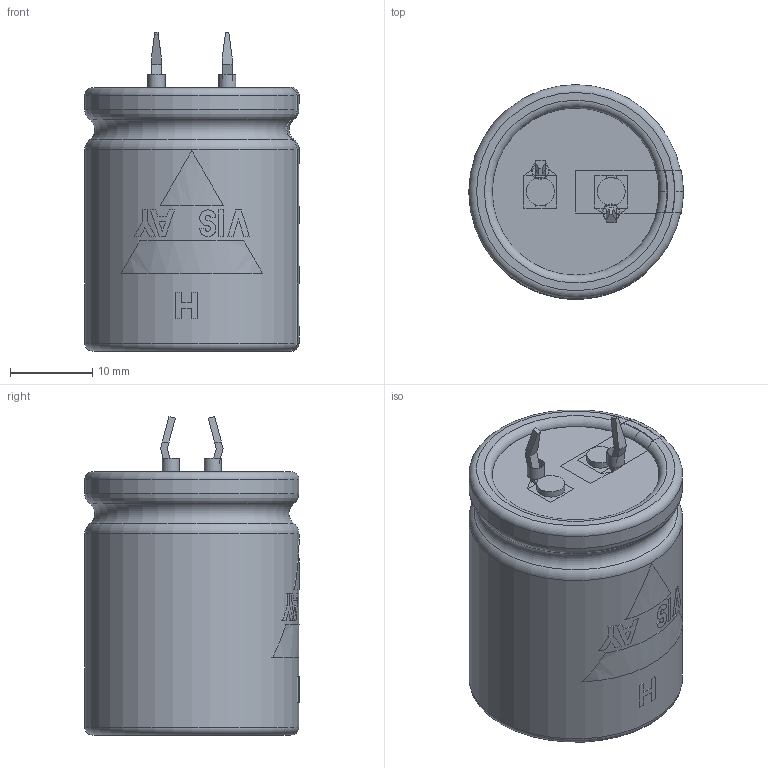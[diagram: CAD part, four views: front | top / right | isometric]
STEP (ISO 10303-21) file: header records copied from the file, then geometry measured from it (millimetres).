
FILE_DESCRIPTION(('FreeCAD Model'),'2;1');
FILE_NAME( 'C:/Users/Gebruiker/Documents/FreeCAD/SnapIn_25x30_2pin_5.8.step', '2020-11-12T20:03:51',('Author'),(''), 'Open CASCADE STEP processor 6.8','FreeCAD','Unknown');
FILE_SCHEMA(('AUTOMOTIVE_DESIGN_CC2 { 1 2 10303 214 -1 1 5 4 }'));
Length unit declared in the file: millimetre
Products named in the file (9): ASSEMBLY; TerminalMin; TerminalPlus; PCBHoles; Disc; BottomInsulation; Can3D; InkMinusBar; InkLogo
Assembly tree (8 placements, depth 2):
  ASSEMBLY
    TerminalMin
    TerminalPlus
    PCBHoles
    Disc
    BottomInsulation
    Can3D
    InkMinusBar
    InkLogo
Bounding box: 26.05 x 26.05 x 38.75 mm (x, y, z)
Volume: 19282.8 mm3; surface area: 9121.2 mm2
Topology: 16 solids, 16 shells, 193 faces, 472 edges, 309 vertices
Faces by surface type: plane 146, cylinder 29, torus 18
Full cylindrical faces by diameter (mm): 2 x2, 2.1 x2, 3.4 x2, 20.3 x1, 20.8 x2, 26 x2
Entity records: 20300 total; most frequent: CARTESIAN_POINT 9713, DIRECTION 1651, ORIENTED_EDGE 944, PCURVE 944, DEFINITIONAL_REPRESENTATION 944, LINE 916, VECTOR 916, EDGE_CURVE 472
